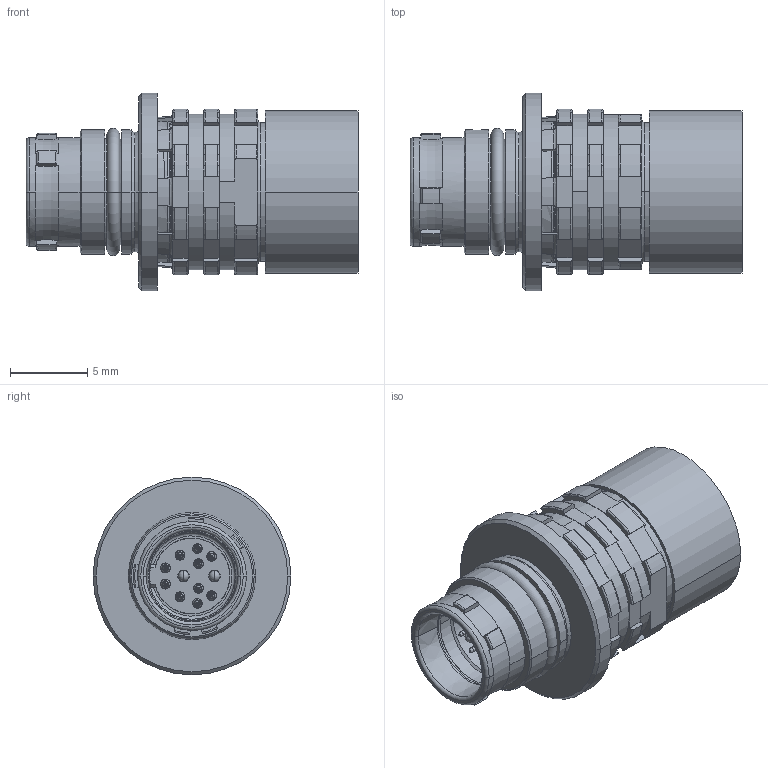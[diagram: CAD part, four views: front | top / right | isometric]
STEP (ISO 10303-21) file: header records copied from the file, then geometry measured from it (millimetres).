
FILE_DESCRIPTION((''),'2;1');
FILE_NAME('TEMP_SW_STEP_MONOBLOCK','2018-10-02T',('srueckerl'),(''),'PRO/ENGINEER BY PARAMETRIC TECHNOLOGY CORPORATION, 2016360','PRO/ENGINEER BY PARAMETRIC TECHNOLOGY CORPORATION, 2016360','');
FILE_SCHEMA(('AUTOMOTIVE_DESIGN { 1 0 10303 214 1 1 1 1 }'));
Products named in the file (1): TEMP_SW_STEP_MONOBLOCK
Bounding box: 21.5 x 12.8 x 12.8 mm (x, y, z)
Volume: 849.4 mm3; surface area: 2550.1 mm2
Topology: 1 solids, 1 shells, 1019 faces, 2597 edges, 1561 vertices
Faces by surface type: cylinder 337, plane 279, torus 178, cone 172, bspline 29, sphere 24
Entity records: 50645 total; most frequent: CARTESIAN_POINT 18829, DIRECTION 5397, ORIENTED_EDGE 5098, EDGE_CURVE 2549, AXIS2_PLACEMENT_3D 2194, VERTEX_POINT 1561, CIRCLE 1204, EDGE_LOOP 1082
